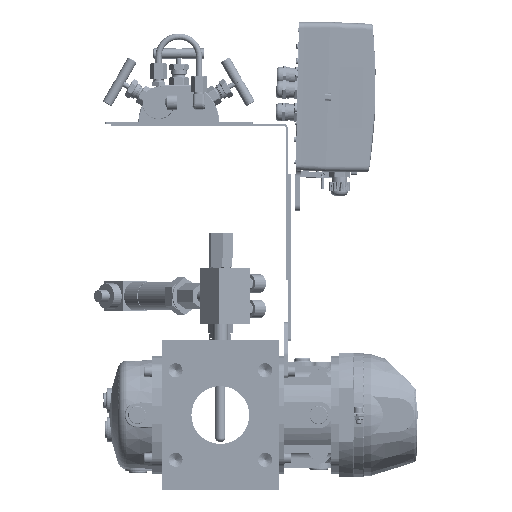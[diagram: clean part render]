
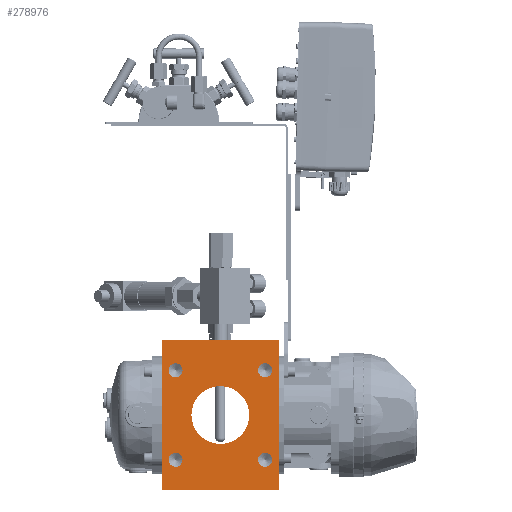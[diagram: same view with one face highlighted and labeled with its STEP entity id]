
A CAD part, front view. The second image highlights one B-rep face of the part: STEP entity #278976.
In plain terms, the highlighted planar face has unit normal (0, -1, 0).
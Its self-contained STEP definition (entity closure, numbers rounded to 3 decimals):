
#278976=ADVANCED_FACE('',(#538154,#538156,#538158,#538160,#538162,#538164),#538166,
.T.);
#538154=FACE_BOUND('',#538155,.T.);
#538155=EDGE_LOOP('',(#751410,#751411,#751412,#751413));
#538156=FACE_BOUND('',#538157,.T.);
#538157=EDGE_LOOP('',(#751414));
#538158=FACE_BOUND('',#538159,.T.);
#538159=EDGE_LOOP('',(#751415));
#538160=FACE_BOUND('',#538161,.T.);
#538161=EDGE_LOOP('',(#751416));
#538162=FACE_BOUND('',#538163,.T.);
#538163=EDGE_LOOP('',(#751417));
#538164=FACE_BOUND('',#538165,.T.);
#538165=EDGE_LOOP('',(#751418));
#538166=PLANE('',#538167);
#538167=AXIS2_PLACEMENT_3D('',#538168,#538169,#538170);
#538168=CARTESIAN_POINT('',(-21.5,-85.5,74.));
#538169=DIRECTION('',(0.,-1.,0.));
#538170=DIRECTION('',(0.,0.,-1.));
#751410=ORIENTED_EDGE('',*,*,#849904,.T.);
#751411=ORIENTED_EDGE('',*,*,#849922,.T.);
#751412=ORIENTED_EDGE('',*,*,#849837,.T.);
#751413=ORIENTED_EDGE('',*,*,#849921,.F.);
#751414=ORIENTED_EDGE('',*,*,#849923,.T.);
#751415=ORIENTED_EDGE('',*,*,#849924,.T.);
#751416=ORIENTED_EDGE('',*,*,#849925,.T.);
#751417=ORIENTED_EDGE('',*,*,#849926,.T.);
#751418=ORIENTED_EDGE('',*,*,#849927,.T.);
#849837=EDGE_CURVE('',#994086,#994084,#994087,.T.);
#849904=EDGE_CURVE('',#994217,#994215,#994218,.T.);
#849921=EDGE_CURVE('',#994217,#994084,#994243,.T.);
#849922=EDGE_CURVE('',#994215,#994086,#994244,.T.);
#849923=EDGE_CURVE('',#994245,#994245,#994246,.T.);
#849924=EDGE_CURVE('',#994247,#994247,#994248,.T.);
#849925=EDGE_CURVE('',#994249,#994249,#994250,.T.);
#849926=EDGE_CURVE('',#994251,#994251,#994252,.T.);
#849927=EDGE_CURVE('',#994253,#994253,#994254,.T.);
#994084=VERTEX_POINT('',#1389622);
#994086=VERTEX_POINT('',#1389626);
#994087=LINE('',#1389627,#1389628);
#994215=VERTEX_POINT('',#1389919);
#994217=VERTEX_POINT('',#1389923);
#994218=LINE('',#1389924,#1389925);
#994243=LINE('',#1389989,#1389990);
#994244=LINE('',#1389992,#1389993);
#994245=VERTEX_POINT('',#1389995);
#994246=CIRCLE('',#1389996,6.917);
#994247=VERTEX_POINT('',#1390000);
#994248=CIRCLE('',#1390001,6.917);
#994249=VERTEX_POINT('',#1390005);
#994250=CIRCLE('',#1390006,6.917);
#994251=VERTEX_POINT('',#1390010);
#994252=CIRCLE('',#1390011,28.5);
#994253=VERTEX_POINT('',#1390015);
#994254=CIRCLE('',#1390016,6.917);
#1389622=CARTESIAN_POINT('',(93.5,-85.5,74.));
#1389626=CARTESIAN_POINT('',(93.5,-85.5,-74.));
#1389627=CARTESIAN_POINT('',(93.5,-85.5,-74.));
#1389628=VECTOR('',#1389629,1.);
#1389629=DIRECTION('',(0.,0.,1.));
#1389919=CARTESIAN_POINT('',(-21.5,-85.5,-74.));
#1389923=CARTESIAN_POINT('',(-21.5,-85.5,74.));
#1389924=CARTESIAN_POINT('',(-21.5,-85.5,74.));
#1389925=VECTOR('',#1389926,1.);
#1389926=DIRECTION('',(0.,0.,-1.));
#1389989=CARTESIAN_POINT('',(-21.5,-85.5,74.));
#1389990=VECTOR('',#1389991,1.);
#1389991=DIRECTION('',(1.,0.,0.));
#1389992=CARTESIAN_POINT('',(-21.5,-85.5,-74.));
#1389993=VECTOR('',#1389994,1.);
#1389994=DIRECTION('',(1.,0.,0.));
#1389995=CARTESIAN_POINT('',(-1.277,-85.5,44.194));
#1389996=AXIS2_PLACEMENT_3D('',#1389997,#1389998,#1389999);
#1389997=CARTESIAN_POINT('',(-8.194,-85.5,44.194));
#1389998=DIRECTION('',(0.,1.,0.));
#1389999=DIRECTION('',(1.,0.,0.));
#1390000=CARTESIAN_POINT('',(-1.277,-85.5,-44.194));
#1390001=AXIS2_PLACEMENT_3D('',#1390002,#1390003,#1390004);
#1390002=CARTESIAN_POINT('',(-8.194,-85.5,-44.194));
#1390003=DIRECTION('',(0.,1.,0.));
#1390004=DIRECTION('',(1.,0.,0.));
#1390005=CARTESIAN_POINT('',(87.112,-85.5,-44.194));
#1390006=AXIS2_PLACEMENT_3D('',#1390007,#1390008,#1390009);
#1390007=CARTESIAN_POINT('',(80.194,-85.5,-44.194));
#1390008=DIRECTION('',(0.,1.,0.));
#1390009=DIRECTION('',(1.,0.,0.));
#1390010=CARTESIAN_POINT('',(7.5,-85.5,0.));
#1390011=AXIS2_PLACEMENT_3D('',#1390012,#1390013,#1390014);
#1390012=CARTESIAN_POINT('',(36.,-85.5,0.));
#1390013=DIRECTION('',(0.,1.,0.));
#1390014=DIRECTION('',(-1.,0.,0.));
#1390015=CARTESIAN_POINT('',(87.112,-85.5,44.194));
#1390016=AXIS2_PLACEMENT_3D('',#1390017,#1390018,#1390019);
#1390017=CARTESIAN_POINT('',(80.194,-85.5,44.194));
#1390018=DIRECTION('',(0.,1.,0.));
#1390019=DIRECTION('',(1.,0.,0.));
